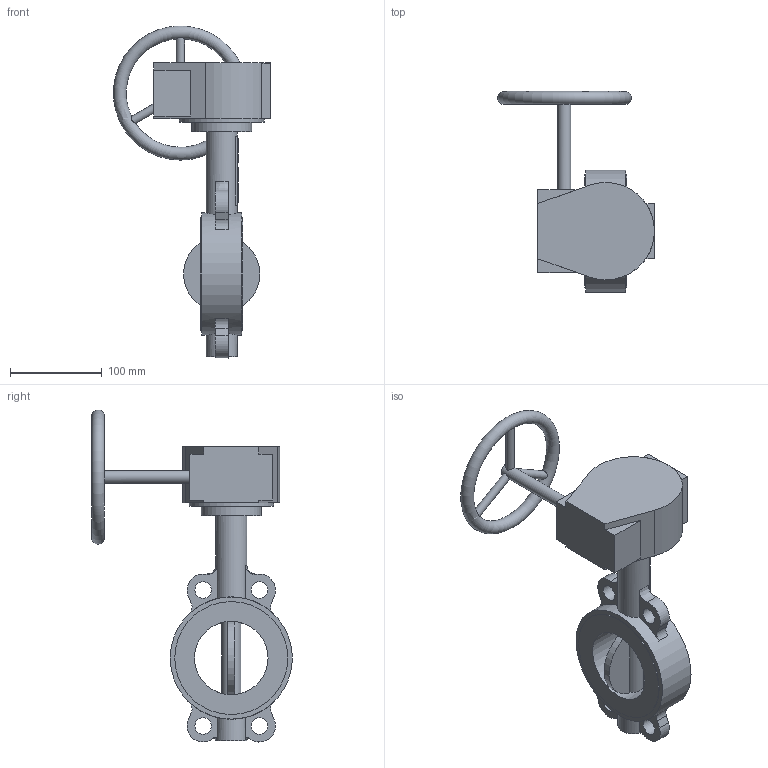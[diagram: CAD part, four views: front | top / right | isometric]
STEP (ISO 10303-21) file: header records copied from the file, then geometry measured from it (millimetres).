
FILE_DESCRIPTION(('STEP AP203'), '1');
FILE_NAME('青蜮铕 015WDN80 疱潴牝铕', '', ('UNSPECIFIED'), ('UNSPECIFIED'), 'ASCON STEP Converter 1.6', 'ASCON Math Kernel', '');
FILE_SCHEMA(('CONFIG_CONTROL_DESIGN'));
Length unit declared in the file: millimetre
Bounding box: 170.78 x 218.5 x 361.35 mm (x, y, z)
Volume: 807275.3 mm3; surface area: 172642 mm2
Topology: 1 solids, 2 shells, 681 faces, 1985 edges, 1278 vertices
Faces by surface type: cylinder 483, plane 193, bspline 4, torus 1
Full cylindrical faces by diameter (mm): 6.7 x4, 8 x4, 9 x3, 12.6 x1, 14 x1, 18 x4, 34 x2, 35 x1, 65 x1, 80 x1, 92 x1, 123 x2, 133 x1
Entity records: 30993 total; most frequent: CARTESIAN_POINT 6683, DIRECTION 4285, ORIENTED_EDGE 3851, EDGE_CURVE 1957, AXIS2_PLACEMENT_3D 1692, VERTEX_POINT 1277, CIRCLE 1014, LINE 901
